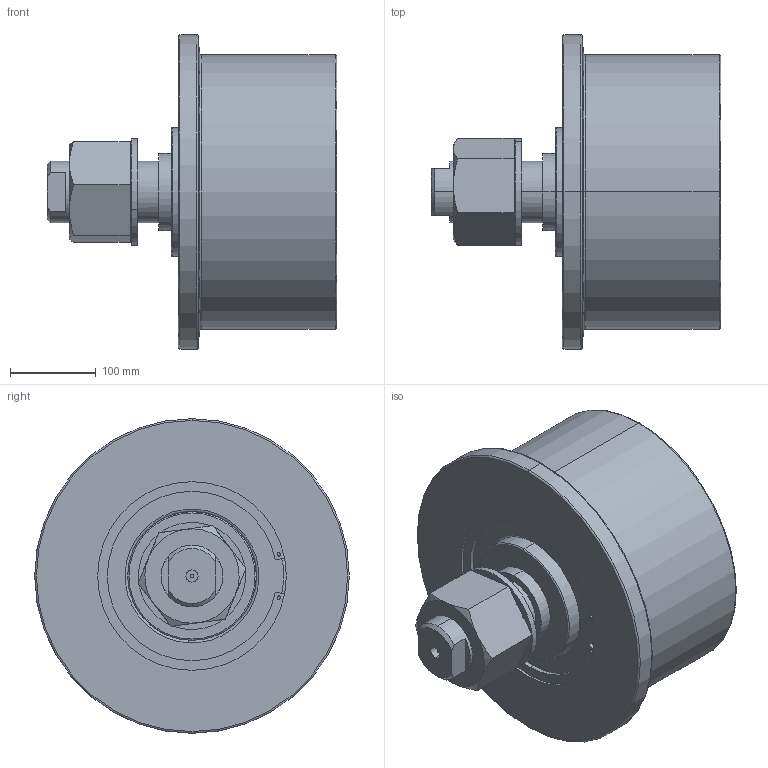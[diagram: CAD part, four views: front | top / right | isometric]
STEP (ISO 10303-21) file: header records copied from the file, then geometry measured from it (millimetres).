
FILE_DESCRIPTION (( 'STEP AP203' ), '1' );
FILE_NAME ('BTSF320X160M72 (3d).STEP', '2019-11-08T05:10:23', ( '' ), ( '' ), 'SwSTEP 2.0', 'SolidWorks 2013', '' );
FILE_SCHEMA (( 'CONFIG_CONTROL_DESIGN' ));
Length unit declared in the file: millimetre
Products named in the file (1): BTSF320X160M72 (3d)
Bounding box: 338 x 367 x 367 mm (x, y, z)
Surface area: 541475 mm2 (no closed solid volume)
Topology: 0 solids, 12 shells, 99 faces, 242 edges, 157 vertices
Faces by surface type: cylinder 42, plane 28, torus 16, cone 13
Entity records: 3091 total; most frequent: CARTESIAN_POINT 615, DIRECTION 571, ORIENTED_EDGE 420, AXIS2_PLACEMENT_3D 245, EDGE_CURVE 242, VERTEX_POINT 157, CIRCLE 145, EDGE_LOOP 113
